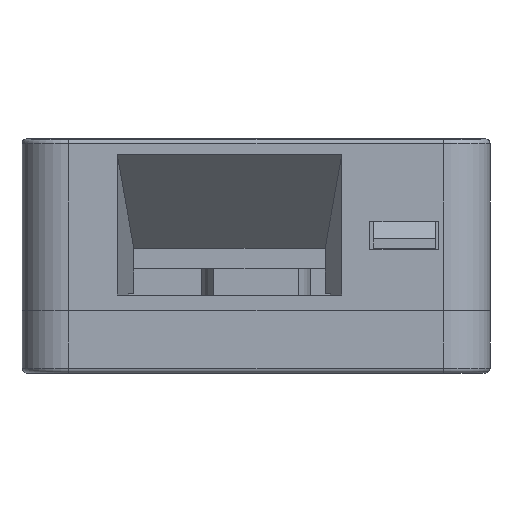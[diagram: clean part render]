
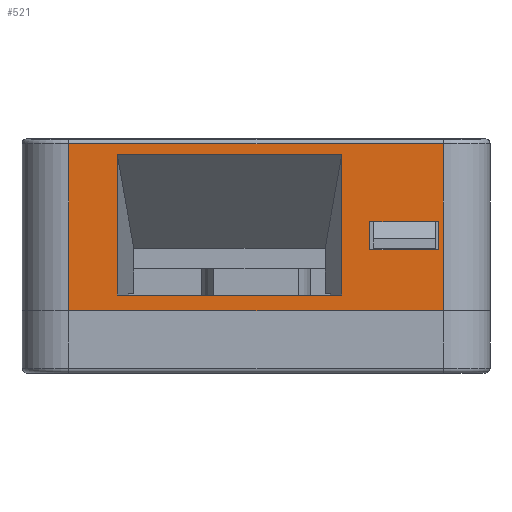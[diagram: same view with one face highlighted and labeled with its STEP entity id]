
A CAD part, left-side view. The second image highlights one B-rep face of the part: STEP entity #521.
In plain terms, the highlighted planar face has unit normal (-1, 0, 0).
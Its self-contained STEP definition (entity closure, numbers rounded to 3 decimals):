
#263=FACE_BOUND('',#1253,.T.);
#264=FACE_BOUND('',#1254,.T.);
#265=FACE_BOUND('',#1255,.T.);
#521=ADVANCED_FACE('',(#263,#264,#265),#822,.T.);
#822=PLANE('',#5423);
#1253=EDGE_LOOP('',(#1771,#1772,#1773,#1774));
#1254=EDGE_LOOP('',(#1775,#1776,#1777,#1778));
#1255=EDGE_LOOP('',(#1779,#1780,#1781,#1782));
#1771=ORIENTED_EDGE('',*,*,#3789,.F.);
#1772=ORIENTED_EDGE('',*,*,#3790,.F.);
#1773=ORIENTED_EDGE('',*,*,#3791,.F.);
#1774=ORIENTED_EDGE('',*,*,#3792,.F.);
#1775=ORIENTED_EDGE('',*,*,#3793,.F.);
#1776=ORIENTED_EDGE('',*,*,#3794,.T.);
#1777=ORIENTED_EDGE('',*,*,#3795,.T.);
#1778=ORIENTED_EDGE('',*,*,#3796,.F.);
#1779=ORIENTED_EDGE('',*,*,#3797,.T.);
#1780=ORIENTED_EDGE('',*,*,#3798,.T.);
#1781=ORIENTED_EDGE('',*,*,#3799,.T.);
#1782=ORIENTED_EDGE('',*,*,#3800,.T.);
#3291=VERTEX_POINT('',#7848);
#3292=VERTEX_POINT('',#7849);
#3293=VERTEX_POINT('',#7851);
#3294=VERTEX_POINT('',#7853);
#3295=VERTEX_POINT('',#7856);
#3296=VERTEX_POINT('',#7857);
#3297=VERTEX_POINT('',#7859);
#3298=VERTEX_POINT('',#7861);
#3299=VERTEX_POINT('',#7864);
#3300=VERTEX_POINT('',#7865);
#3301=VERTEX_POINT('',#7867);
#3302=VERTEX_POINT('',#7869);
#3789=EDGE_CURVE('',#3291,#3292,#4523,.T.);
#3790=EDGE_CURVE('',#3293,#3291,#4524,.T.);
#3791=EDGE_CURVE('',#3294,#3293,#4525,.T.);
#3792=EDGE_CURVE('',#3292,#3294,#4526,.T.);
#3793=EDGE_CURVE('',#3295,#3296,#4527,.T.);
#3794=EDGE_CURVE('',#3295,#3297,#4528,.T.);
#3795=EDGE_CURVE('',#3297,#3298,#4529,.T.);
#3796=EDGE_CURVE('',#3296,#3298,#4530,.T.);
#3797=EDGE_CURVE('',#3299,#3300,#4531,.T.);
#3798=EDGE_CURVE('',#3300,#3301,#4532,.T.);
#3799=EDGE_CURVE('',#3301,#3302,#4533,.T.);
#3800=EDGE_CURVE('',#3302,#3299,#4534,.T.);
#4523=LINE('',#7847,#5030);
#4524=LINE('',#7850,#5031);
#4525=LINE('',#7852,#5032);
#4526=LINE('',#7854,#5033);
#4527=LINE('',#7855,#5034);
#4528=LINE('',#7858,#5035);
#4529=LINE('',#7860,#5036);
#4530=LINE('',#7862,#5037);
#4531=LINE('',#7863,#5038);
#4532=LINE('',#7866,#5039);
#4533=LINE('',#7868,#5040);
#4534=LINE('',#7870,#5041);
#5030=VECTOR('',#6162,1.);
#5031=VECTOR('',#6163,1.);
#5032=VECTOR('',#6164,1.);
#5033=VECTOR('',#6165,1.);
#5034=VECTOR('',#6166,1.);
#5035=VECTOR('',#6167,1.);
#5036=VECTOR('',#6168,1.);
#5037=VECTOR('',#6169,1.);
#5038=VECTOR('',#6170,1.);
#5039=VECTOR('',#6171,1.);
#5040=VECTOR('',#6172,1.);
#5041=VECTOR('',#6173,1.);
#5423=AXIS2_PLACEMENT_3D('',#7871,#6174,#6175);
#6162=DIRECTION('',(0.,0.,1.));
#6163=DIRECTION('',(0.,-1.,0.));
#6164=DIRECTION('',(0.,0.,-1.));
#6165=DIRECTION('',(0.,1.,0.));
#6166=DIRECTION('',(0.,0.,-1.));
#6167=DIRECTION('',(0.,-1.,0.));
#6168=DIRECTION('',(0.,0.,-1.));
#6169=DIRECTION('',(0.,-1.,0.));
#6170=DIRECTION('',(0.,0.,1.));
#6171=DIRECTION('',(0.,1.,0.));
#6172=DIRECTION('',(0.,0.,-1.));
#6173=DIRECTION('',(0.,-1.,0.));
#6174=DIRECTION('',(-1.,0.,0.));
#6175=DIRECTION('',(0.,0.,1.));
#7847=CARTESIAN_POINT('',(-37.,-11.085,1.675));
#7848=CARTESIAN_POINT('',(-37.,-11.085,1.675));
#7849=CARTESIAN_POINT('',(-37.,-11.085,3.475));
#7850=CARTESIAN_POINT('',(-37.,-6.685,1.675));
#7851=CARTESIAN_POINT('',(-37.,-6.685,1.675));
#7852=CARTESIAN_POINT('',(-37.,-6.685,3.475));
#7853=CARTESIAN_POINT('',(-37.,-6.685,3.475));
#7854=CARTESIAN_POINT('',(-37.,-11.085,3.475));
#7855=CARTESIAN_POINT('',(-37.,9.515,7.775));
#7856=CARTESIAN_POINT('',(-37.,9.515,7.775));
#7857=CARTESIAN_POINT('',(-37.,9.515,-1.225));
#7858=CARTESIAN_POINT('',(-37.,9.515,7.775));
#7859=CARTESIAN_POINT('',(-37.,-4.885,7.775));
#7860=CARTESIAN_POINT('',(-37.,-4.885,7.775));
#7861=CARTESIAN_POINT('',(-37.,-4.885,-1.225));
#7862=CARTESIAN_POINT('',(-37.,9.515,-1.225));
#7863=CARTESIAN_POINT('',(-37.,-11.385,8.775));
#7864=CARTESIAN_POINT('',(-37.,-11.385,-2.225));
#7865=CARTESIAN_POINT('',(-37.,-11.385,8.475));
#7866=CARTESIAN_POINT('',(-37.,12.615,8.475));
#7867=CARTESIAN_POINT('',(-37.,12.615,8.475));
#7868=CARTESIAN_POINT('',(-37.,12.615,8.775));
#7869=CARTESIAN_POINT('',(-37.,12.615,-2.225));
#7870=CARTESIAN_POINT('',(-37.,-14.385,-2.225));
#7871=CARTESIAN_POINT('',(-37.,-14.385,8.775));
